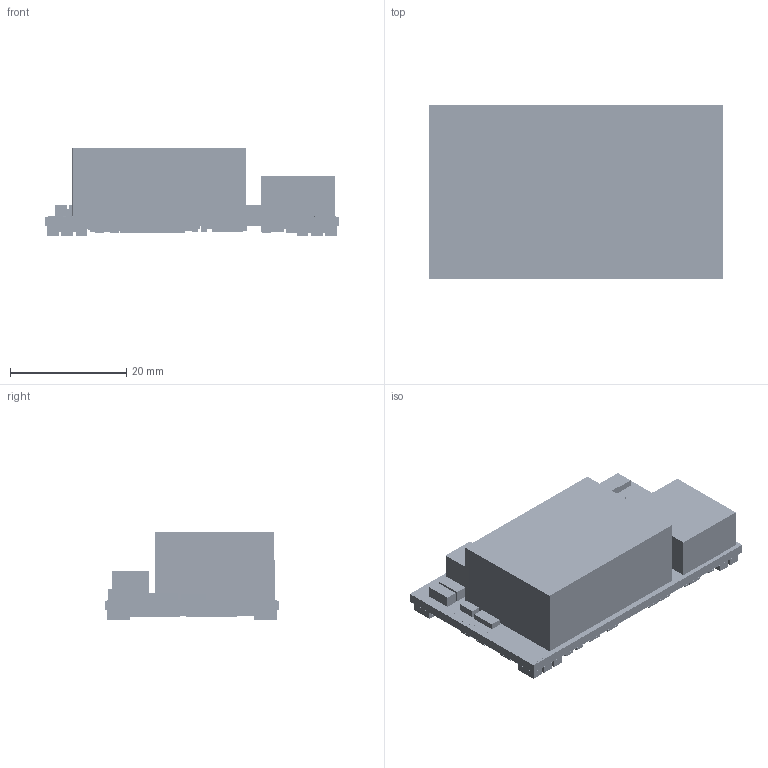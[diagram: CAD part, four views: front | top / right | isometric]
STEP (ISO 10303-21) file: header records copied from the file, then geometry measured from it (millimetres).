
FILE_DESCRIPTION(('FreeCAD Model'),'2;1');
FILE_NAME('Open CASCADE Shape Model','2025-05-30T16:44:32',(''),(''), 'Open CASCADE STEP processor 7.6','FreeCAD','Unknown');
FILE_SCHEMA(('AUTOMOTIVE_DESIGN { 1 0 10303 214 1 1 1 1 }'));
Products named in the file (1): Ag59800_Simplified
Bounding box: 50.62 x 30 x 15 mm (x, y, z)
Surface area: 18619.1 mm2 (no closed solid volume)
Topology: 0 solids, 9346 shells, 9346 faces, 45446 edges, 45442 vertices
Faces by surface type: extrusion 6417, revolution 2929
Entity records: 578460 total; most frequent: CARTESIAN_POINT 103796, DIRECTION 75746, VECTOR 49383, ORIENTED_EDGE 45442, EDGE_CURVE 45442, VERTEX_POINT 45442, LINE 42966, AXIS2_PLACEMENT_3D 11717
